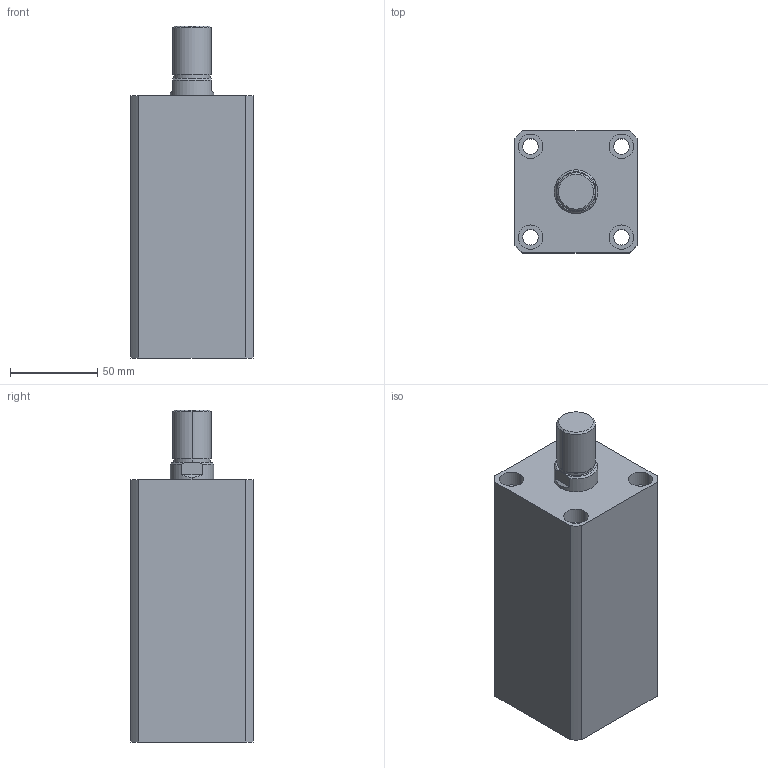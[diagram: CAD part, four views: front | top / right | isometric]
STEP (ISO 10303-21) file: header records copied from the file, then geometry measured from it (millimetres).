
FILE_DESCRIPTION (( 'STEP AP203' ), '1' );
FILE_NAME ('HTB-SDMB40-95W.STEP', '2019-10-09T02:21:52', ( '微软用户' ), ( '微软中国' ), 'SwSTEP 2.0', 'SolidWorks 2012', '' );
FILE_SCHEMA (( 'CONFIG_CONTROL_DESIGN' ));
Length unit declared in the file: millimetre
Products named in the file (3): HTB-SDMB40-95W活塞杆; HTB-SDMB40-95掛极; HTB-SDMB40-95W
Assembly tree (2 placements, depth 2):
  HTB-SDMB40-95W
    HTB-SDMB40-95掛极
    HTB-SDMB40-95W活塞杆
Bounding box: 70 x 70 x 190 mm (x, y, z)
Volume: 627387.1 mm3; surface area: 103231.6 mm2
Topology: 2 solids, 2 shells, 141 faces, 337 edges, 222 vertices
Faces by surface type: plane 67, cylinder 48, bspline 16, torus 6, cone 4
Entity records: 5180 total; most frequent: CARTESIAN_POINT 1597, ORIENTED_EDGE 674, DIRECTION 669, EDGE_CURVE 337, AXIS2_PLACEMENT_3D 242, VERTEX_POINT 222, VECTOR 185, LINE 185
